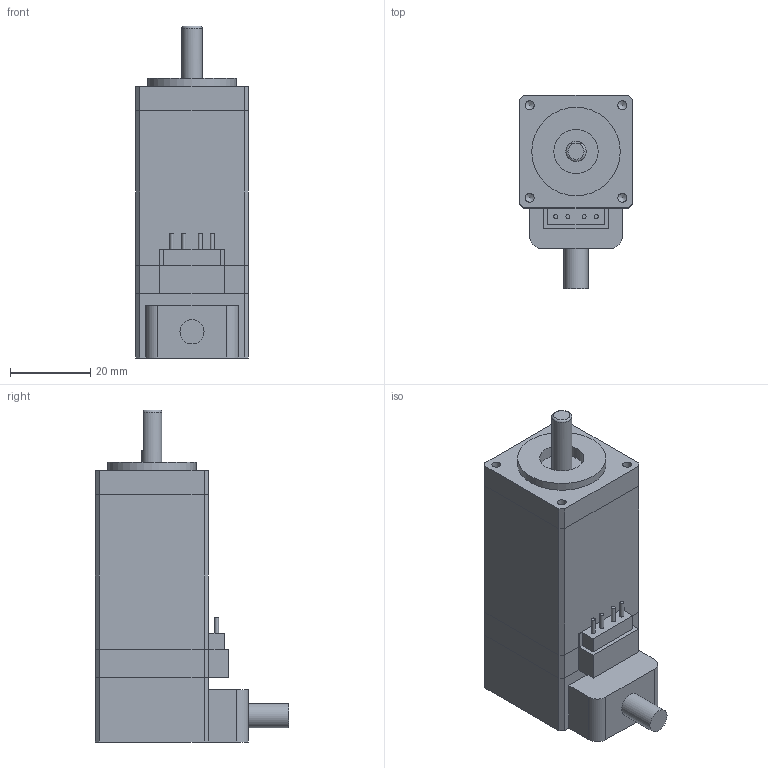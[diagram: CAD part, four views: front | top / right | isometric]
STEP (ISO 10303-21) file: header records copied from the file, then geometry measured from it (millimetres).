
FILE_DESCRIPTION(/* description */ (''),/* implementation_level */ '2;1');
FILE_NAME(/* name */ 'STP-28D3-Y17-38230.stp',/* time_stamp */ '2018-09-03T14:49:23+08:00',/* author */ (''),/* organization */ (''),/* preprocessor_version */ 'ST-DEVELOPER v11',/* originating_system */ 'SIEMENS UGS NX 6.0',/* authorisation */ '');
FILE_SCHEMA (('CONFIG_CONTROL_DESIGN'));
Length unit declared in the file: millimetre
Products named in the file (1): STP-28D3-Y17-38230
Bounding box: 28 x 48 x 82.5 mm (x, y, z)
Volume: 57512.4 mm3; surface area: 15580.5 mm2
Topology: 4 solids, 4 shells, 85 faces, 205 edges, 136 vertices
Faces by surface type: plane 66, cylinder 14, cone 4, torus 1
Full cylindrical faces by diameter (mm): 1 x4, 2.2 x4, 5 x1, 6 x1, 11 x1, 22 x1
Entity records: 2385 total; most frequent: CARTESIAN_POINT 405, DIRECTION 379, ORIENTED_EDGE 358, EDGE_CURVE 179, LINE 147, VECTOR 147, VERTEX_POINT 130, AXIS2_PLACEMENT_3D 116
